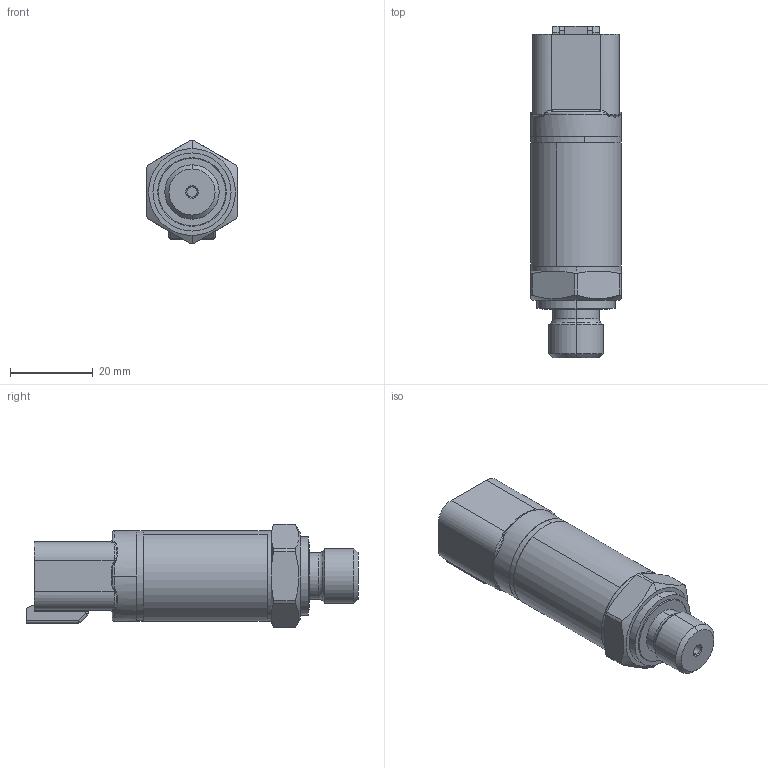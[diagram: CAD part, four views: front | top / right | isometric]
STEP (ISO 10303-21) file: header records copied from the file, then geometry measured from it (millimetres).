
FILE_DESCRIPTION (( 'STEP AP203' ), '1' );
FILE_NAME ('KH_Deutsch 4poli.STEP', '2016-03-03T15:36:59', ( '' ), ( '' ), 'SwSTEP 2.0', 'SolidWorks 2015', '' );
FILE_SCHEMA (( 'CONFIG_CONTROL_DESIGN' ));
Length unit declared in the file: millimetre
Products named in the file (1): KH_Deutsch 4poli
Bounding box: 22 x 80.32 x 25 mm (x, y, z)
Volume: 12155 mm3; surface area: 13458.1 mm2
Topology: 9 solids, 9 shells, 408 faces, 964 edges, 574 vertices
Faces by surface type: cylinder 162, plane 113, bspline 60, cone 45, torus 20, sphere 8
Entity records: 16074 total; most frequent: CARTESIAN_POINT 6787, DIRECTION 1998, ORIENTED_EDGE 1886, EDGE_CURVE 943, AXIS2_PLACEMENT_3D 806, VERTEX_POINT 574, CIRCLE 457, EDGE_LOOP 451
